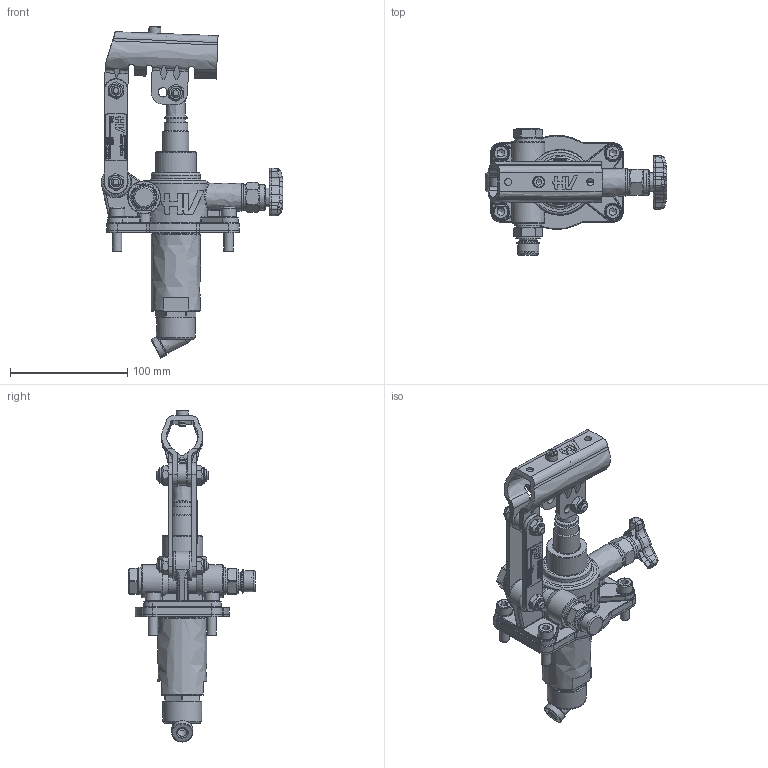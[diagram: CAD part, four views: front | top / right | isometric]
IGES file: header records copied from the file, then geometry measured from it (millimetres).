
Global section: file name: 6052.6000; native system: Autodesk Inventor 2026; preprocessor: unknown; author: christian.scardovi; date: 20260212.143544; units: millimetre
Bounding box: 154.5 x 107.5 x 282.76 mm (x, y, z)
Volume: 416614.3 mm3; surface area: 184380.7 mm2
Topology: 41 solids, 41 shells, 1899 faces, 4838 edges, 3113 vertices
Faces by surface type: bspline 1899
